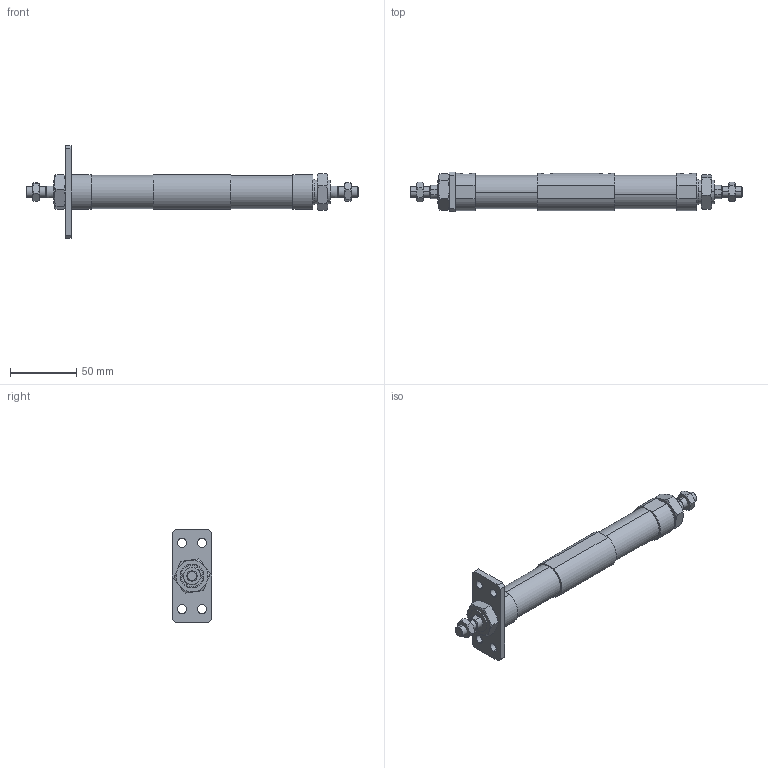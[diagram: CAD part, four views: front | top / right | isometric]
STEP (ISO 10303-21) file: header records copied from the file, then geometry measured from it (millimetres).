
FILE_DESCRIPTION (( 'STEP AP203' ), '1' );
FILE_NAME ('JGD7-20-15-15-A.STEP', '2016-04-19T07:20:50', ( '' ), ( '' ), 'SwSTEP 2.0', 'SolidWorks 2014', '' );
FILE_SCHEMA (( 'CONFIG_CONTROL_DESIGN' ));
Length unit declared in the file: millimetre
Products named in the file (7): JGD2-20MI; M18x1.5-8mm; JGLH2-20B; 20-15; M8x1.25-5mm; J#2-20-A; JGD7-20-15-15-A
Assembly tree (10 placements, depth 2):
  JGD7-20-15-15-A
    JGLH2-20B  x2
    20-15  x2
    JGD2-20MI
    M8x1.25-5mm  x2
    M18x1.5-8mm  x2
    J#2-20-A
Bounding box: 250 x 30 x 70 mm (x, y, z)
Volume: 118217 mm3; surface area: 33795.8 mm2
Topology: 10 solids, 10 shells, 186 faces, 406 edges, 252 vertices
Faces by surface type: plane 78, cylinder 52, torus 48, cone 8
Entity records: 4357 total; most frequent: CARTESIAN_POINT 1086, DIRECTION 522, ORIENTED_EDGE 484, EDGE_CURVE 242, AXIS2_PLACEMENT_3D 216, VERTEX_POINT 152, EDGE_LOOP 130, ADVANCED_FACE 109
